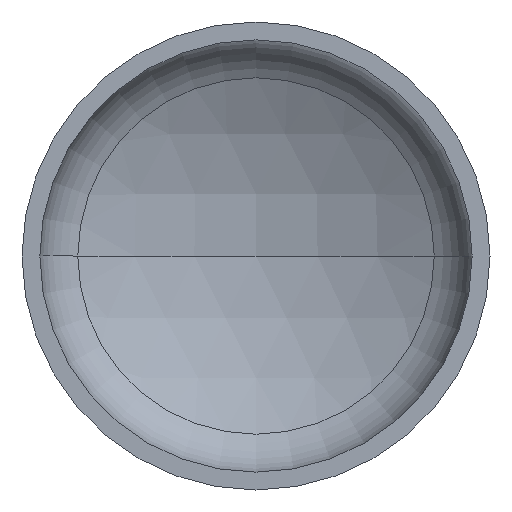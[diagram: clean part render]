
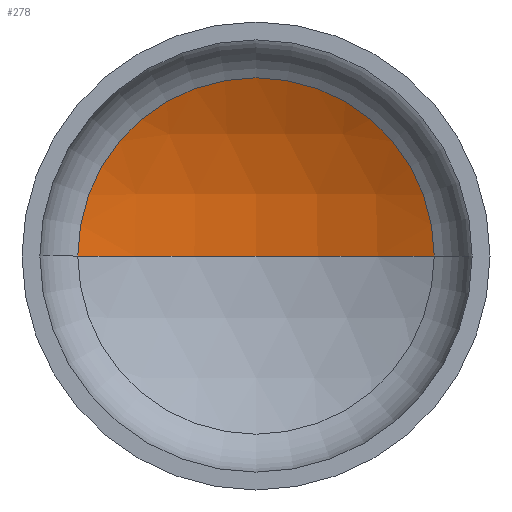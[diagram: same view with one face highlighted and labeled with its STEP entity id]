
A CAD part, front view. The second image highlights one B-rep face of the part: STEP entity #278.
In plain terms, the highlighted spherical face has radius 1760 mm.
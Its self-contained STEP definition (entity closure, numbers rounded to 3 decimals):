
#7 = ORIENTED_EDGE ( 'NONE', *, *, #353, .T. ) ;
#20 = AXIS2_PLACEMENT_3D ( 'NONE', #267, #32, #287 ) ;
#21 = ORIENTED_EDGE ( 'NONE', *, *, #348, .T. ) ;
#22 = AXIS2_PLACEMENT_3D ( 'NONE', #354, #224, #377 ) ;
#28 = AXIS2_PLACEMENT_3D ( 'NONE', #241, #398, #265 ) ;
#32 = DIRECTION ( 'NONE',  ( 0., 0., 1. ) ) ;
#43 = EDGE_LOOP ( 'NONE', ( #74, #7, #21 ) ) ;
#52 = AXIS2_PLACEMENT_3D ( 'NONE', #351, #376, #240 ) ;
#56 = VERTEX_POINT ( 'NONE', #173 ) ;
#74 = ORIENTED_EDGE ( 'NONE', *, *, #361, .F. ) ;
#76 = VERTEX_POINT ( 'NONE', #176 ) ;
#111 = VERTEX_POINT ( 'NONE', #159 ) ;
#146 = CIRCLE ( 'NONE', #20, 1760. ) ;
#159 = CARTESIAN_POINT ( 'NONE',  ( 0., 611.231, 0. ) ) ;
#173 = CARTESIAN_POINT ( 'NONE',  ( -837.859, 399.001, 0. ) ) ;
#176 = CARTESIAN_POINT ( 'NONE',  ( 837.859, 399.001, 0. ) ) ;
#214 = CIRCLE ( 'NONE', #22, 1760. ) ;
#224 = DIRECTION ( 'NONE',  ( 0., 0., -1. ) ) ;
#240 = DIRECTION ( 'NONE',  ( -1., 0., 0. ) ) ;
#241 = CARTESIAN_POINT ( 'NONE',  ( 0., 399.001, 0. ) ) ;
#265 = DIRECTION ( 'NONE',  ( 1., 0., 0. ) ) ;
#267 = CARTESIAN_POINT ( 'NONE',  ( 0., -1148.769, 0. ) ) ;
#278 = ADVANCED_FACE ( 'NONE', ( #299 ), #356, .F. ) ;
#287 = DIRECTION ( 'NONE',  ( 1., 0., 0. ) ) ;
#299 = FACE_OUTER_BOUND ( 'NONE', #43, .T. ) ;
#335 = CIRCLE ( 'NONE', #28, 837.859 ) ;
#348 = EDGE_CURVE ( 'NONE', #76, #56, #335, .T. ) ;
#351 = CARTESIAN_POINT ( 'NONE',  ( 0., -1148.769, 0. ) ) ;
#353 = EDGE_CURVE ( 'NONE', #111, #76, #214, .T. ) ;
#354 = CARTESIAN_POINT ( 'NONE',  ( 0., -1148.769, 0. ) ) ;
#356 = SPHERICAL_SURFACE ( 'NONE', #52, 1760. ) ;
#361 = EDGE_CURVE ( 'NONE', #111, #56, #146, .T. ) ;
#376 = DIRECTION ( 'NONE',  ( 0., 0., -1. ) ) ;
#377 = DIRECTION ( 'NONE',  ( -1., 0., 0. ) ) ;
#398 = DIRECTION ( 'NONE',  ( 0., -1., 0. ) ) ;
